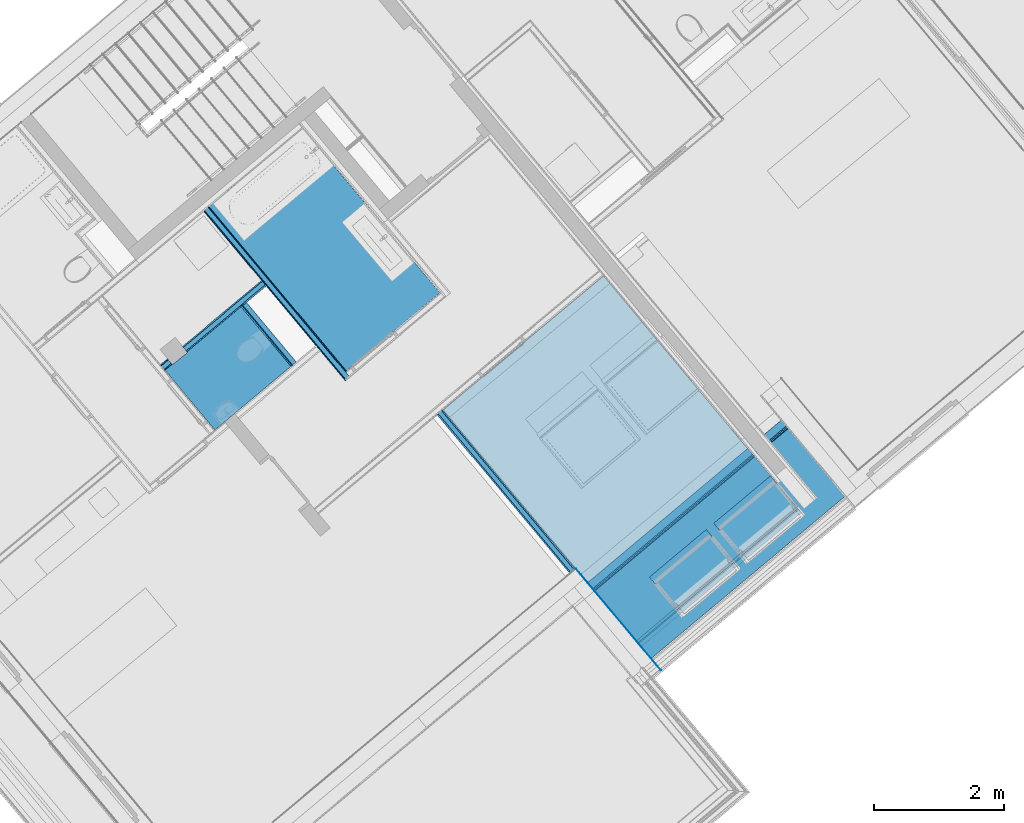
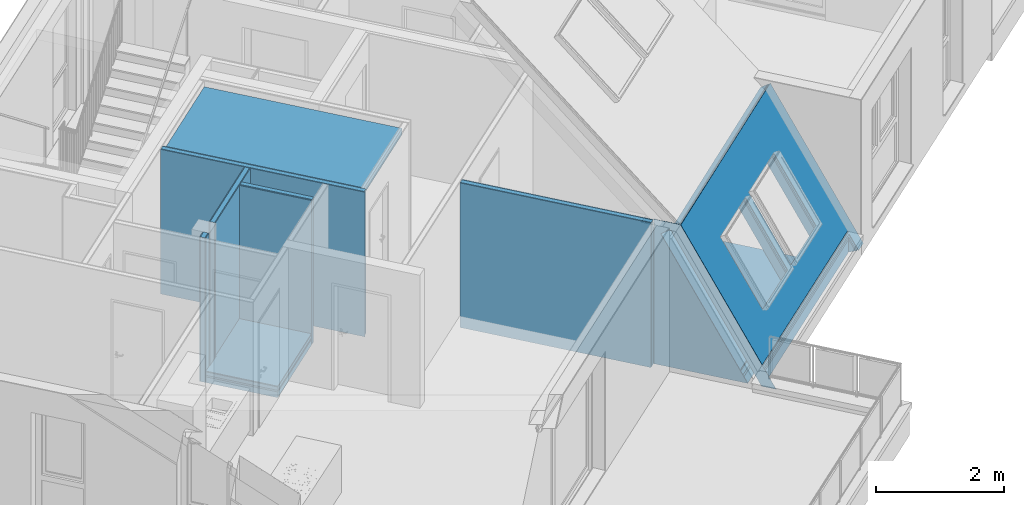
# One storey, part 27 of 61: 25 building element parts, 2 openings, 9 elements without a shape of their own.
"""IFC4 building model written with IfcOpenShell, lengths in metres."""

from ifc_helpers import new_model, entity, si_unit, converted_unit, derived_unit, direction, frame, origin_with_axes, place, context, subcontext, project, spatial, polygons, material, type_object, element, aggregate, save


model = new_model("IFC4")

# Units and contexts
model_context = context("Model", 3, precision=1e-05, world=origin_with_axes(), true_north=direction((0.0, 1.0)))
body_context = subcontext(model_context, "Body", "Model", "MODEL_VIEW")
ifc_project = project(units=[si_unit("LENGTHUNIT", "METRE"), si_unit("AREAUNIT", "SQUARE_METRE"), si_unit("VOLUMEUNIT", "CUBIC_METRE"), converted_unit("PLANEANGLEUNIT", "DEGREE", entity("IfcPlaneAngleMeasure", 0.0174532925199), si_unit("PLANEANGLEUNIT", "RADIAN"), dimensions=[0, 0, 0, 0, 0, 0, 0]), converted_unit("TIMEUNIT", "Year", entity("IfcTimeMeasure", 31556926.0), si_unit("TIMEUNIT", "SECOND"), dimensions=[0, 0, 1, 0, 0, 0, 0]), si_unit("MASSUNIT", "GRAM", prefix="KILO"), si_unit("THERMODYNAMICTEMPERATUREUNIT", "DEGREE_CELSIUS"), si_unit("LUMINOUSINTENSITYUNIT", "LUMEN"), si_unit("ENERGYUNIT", "JOULE", prefix="MEGA"), derived_unit("THERMALCONDUCTANCEUNIT", [(si_unit("POWERUNIT", "WATT"), 1), (si_unit("LENGTHUNIT", "METRE"), -1), (si_unit("THERMODYNAMICTEMPERATUREUNIT", "KELVIN"), -1)]), derived_unit("SPECIFICHEATCAPACITYUNIT", [(si_unit("ENERGYUNIT", "JOULE"), 1), (si_unit("MASSUNIT", "GRAM", prefix="KILO"), -1), (si_unit("THERMODYNAMICTEMPERATUREUNIT", "KELVIN"), -1)]), derived_unit("MASSDENSITYUNIT", [(si_unit("MASSUNIT", "GRAM", prefix="KILO"), 1), (si_unit("VOLUMEUNIT", "CUBIC_METRE"), -1)])], contexts=[model_context])

# Site, building, storey
site_placement = place(None, frame((-0.00153261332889, -0.00661245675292, 0.0), z_axis=(0.0, 0.0, 1.0), x_axis=(1.0, 0.0, 0.0)))
site = spatial("IfcSite", under=ifc_project, at=site_placement, Name="Gelände", CompositionType="ELEMENT")
building_placement = place(site_placement, origin_with_axes())
building = spatial("IfcBuilding", under=site, at=building_placement, Name="Gebäude", CompositionType="ELEMENT")
storey_placement = place(building_placement, frame((0.0, 0.0, 5.7), z_axis=(0.0, 0.0, 1.0), x_axis=(1.0, 0.0, 0.0)))
storey = spatial("IfcBuildingStorey", under=building, at=storey_placement, Name="DG1", CompositionType="ELEMENT", Elevation=5.7)

# Wall, building element parts
wall_type_1 = type_object("IfcWallType", Name="IW LB 01 Leichtbautrennwand einfach 10,5 cm 105", PredefinedType="NOTDEFINED")
wall_1_placement = place(storey_placement, frame((2.49953312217, 17.9744361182, 0.0), z_axis=(0.0, 0.0, 1.0), x_axis=(0.641209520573, -0.767365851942, 0.0)))
wall_1 = element("IfcWall", 1, at=wall_1_placement, inside=storey, type_object=wall_type_1, Name="Wand-012", PredefinedType="NOTDEFINED")
ifc_material_1 = material(Name="Gipskarton")
building_element_part_1_placement = place(wall_1_placement, origin_with_axes())
building_element_part_1 = element("IfcBuildingElementPart", 2, at=building_element_part_1_placement, material=ifc_material_1, Name="Gipskarton", PredefinedType="NOTDEFINED", context=body_context, shape_type="Tessellation", body=[
    polygons([(3.18327552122, -0.015, 2.76), (3.18327552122, 0.0, 2.76), (0.0, 0.0, 2.76), (0.0, -0.015, 2.76), (3.18327552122, -0.015, 0.0), (3.18327552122, 0.0, 0.0), (0.0, 0.0, 0.0), (0.0, -0.015, 0.0)], [[[1, 2, 3, 4]], [[1, 5, 6, 2]], [[2, 6, 7, 3]], [[4, 3, 7, 8]], [[5, 1, 4, 8]], [[6, 5, 8, 7]]], closed=True),
])
ifc_material_2 = material(Name="Mineralwolle weich")
building_element_part_2_placement = place(wall_1_placement, origin_with_axes())
building_element_part_2 = element("IfcBuildingElementPart", 3, at=building_element_part_2_placement, material=ifc_material_2, Name="Mineralwolle weich", PredefinedType="NOTDEFINED", context=body_context, shape_type="Tessellation", body=[
    polygons([(3.18327552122, -0.09, 2.76), (3.18327552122, -0.015, 2.76), (0.0, -0.015, 2.76), (0.0, -0.09, 2.76), (3.18327552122, -0.09, 0.0), (3.18327552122, -0.015, 0.0), (0.0, -0.015, 0.0), (0.0, -0.09, 0.0)], [[[1, 2, 3, 4]], [[1, 5, 6, 2]], [[2, 6, 7, 3]], [[4, 3, 7, 8]], [[5, 1, 4, 8]], [[6, 5, 8, 7]]], closed=True),
])
building_element_part_3_placement = place(wall_1_placement, origin_with_axes())
building_element_part_3 = element("IfcBuildingElementPart", 4, at=building_element_part_3_placement, material=ifc_material_1, Name="Gipskarton", PredefinedType="NOTDEFINED", context=body_context, shape_type="Tessellation", body=[
    polygons([(3.18327552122, -0.105, 2.76), (3.18327552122, -0.09, 2.76), (0.0, -0.09, 2.76), (0.0, -0.105, 2.76), (3.18327552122, -0.105, 0.0), (3.18327552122, -0.09, 0.0), (0.0, -0.09, 0.0), (0.0, -0.105, 0.0)], [[[1, 2, 3, 4]], [[1, 5, 6, 2]], [[2, 6, 7, 3]], [[4, 3, 7, 8]], [[5, 1, 4, 8]], [[6, 5, 8, 7]]], closed=True),
])
aggregate(wall_1, [building_element_part_1, building_element_part_2, building_element_part_3])

wall_2_placement = place(storey_placement, frame((-0.283908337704, 19.9697246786, 0.0), z_axis=(0.0, 0.0, 1.0), x_axis=(-0.76736585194, -0.641209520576, 0.0)))
wall_2 = element("IfcWall", 5, at=wall_2_placement, inside=storey, type_object=wall_type_1, Name="Wand-012", PredefinedType="NOTDEFINED")
building_element_part_4_placement = place(wall_2_placement, origin_with_axes())
building_element_part_4 = element("IfcBuildingElementPart", 6, at=building_element_part_4_placement, material=ifc_material_1, Name="Gipskarton", PredefinedType="NOTDEFINED", context=body_context, shape_type="Tessellation", body=[
    polygons([(1.88476244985, 0.105, 0.0), (1.88476244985, 0.105, 2.76), (2.02595275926, 0.105, 2.76), (2.02595275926, 0.105, 0.0), (1.88453826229, 0.09, 2.76), (1.88453826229, 0.09, 0.0), (2.02595275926, 0.09, 2.76), (2.02595275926, 0.09, 0.0)], [[[1, 2, 3, 4]], [[5, 2, 1, 6]], [[2, 5, 7, 3]], [[8, 4, 3, 7]], [[6, 1, 4, 8]], [[5, 6, 8, 7]]], closed=True),
    polygons([(1.58450475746, 0.09, 2.76), (1.58472894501, 0.105, 2.76), (0.0, 0.105, 2.76), (0.0, 0.09, 2.76), (1.58472894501, 0.105, 0.0), (1.58450475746, 0.09, 0.0), (0.0, 0.105, 0.0), (0.0, 0.09, 0.0)], [[[1, 2, 3, 4]], [[5, 2, 1, 6]], [[2, 5, 7, 3]], [[3, 7, 8, 4]], [[6, 1, 4, 8]], [[5, 6, 8, 7]]], closed=True),
])
building_element_part_5_placement = place(wall_2_placement, origin_with_axes())
building_element_part_5 = element("IfcBuildingElementPart", 7, at=building_element_part_5_placement, material=ifc_material_2, Name="Mineralwolle weich", PredefinedType="NOTDEFINED", context=body_context, shape_type="Tessellation", body=[
    polygons([(1.88453826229, 0.09, 0.0), (1.88453826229, 0.09, 2.76), (2.02595275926, 0.09, 2.76), (2.02595275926, 0.09, 0.0), (1.8834173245, 0.015, 2.76), (1.8834173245, 0.015, 0.0), (2.02595275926, 0.015, 2.76), (2.02595275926, 0.015, 0.0)], [[[1, 2, 3, 4]], [[5, 2, 1, 6]], [[2, 5, 7, 3]], [[8, 4, 3, 7]], [[6, 1, 4, 8]], [[5, 6, 8, 7]]], closed=True),
    polygons([(1.58338381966, 0.015, 2.76), (1.58450475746, 0.09, 2.76), (0.0, 0.09, 2.76), (0.0, 0.015, 2.76), (1.58450475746, 0.09, 0.0), (1.58338381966, 0.015, 0.0), (0.0, 0.09, 0.0), (0.0, 0.015, 0.0)], [[[1, 2, 3, 4]], [[5, 2, 1, 6]], [[2, 5, 7, 3]], [[3, 7, 8, 4]], [[6, 1, 4, 8]], [[5, 6, 8, 7]]], closed=True),
])
building_element_part_6_placement = place(wall_2_placement, origin_with_axes())
building_element_part_6 = element("IfcBuildingElementPart", 8, at=building_element_part_6_placement, material=ifc_material_1, Name="Gipskarton", PredefinedType="NOTDEFINED", context=body_context, shape_type="Tessellation", body=[
    polygons([(1.8834173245, 0.015, 0.0), (1.8834173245, 0.015, 2.76), (2.02595275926, 0.015, 2.76), (2.02595275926, 0.015, 0.0), (1.88319313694, 0.0, 2.76), (1.88319313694, 0.0, 0.0), (2.02595275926, 0.0, 2.76), (2.02595275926, 0.0, 0.0)], [[[1, 2, 3, 4]], [[5, 2, 1, 6]], [[2, 5, 7, 3]], [[8, 4, 3, 7]], [[6, 1, 4, 8]], [[5, 6, 8, 7]]], closed=True),
    polygons([(1.58315963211, 0.0, 2.76), (1.58338381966, 0.015, 2.76), (0.0, 0.015, 2.76), (0.0, 0.0, 2.76), (1.58338381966, 0.015, 0.0), (1.58315963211, 0.0, 0.0), (0.0, 0.015, 0.0), (0.0, 0.0, 0.0)], [[[1, 2, 3, 4]], [[5, 2, 1, 6]], [[2, 5, 7, 3]], [[3, 7, 8, 4]], [[6, 1, 4, 8]], [[5, 6, 8, 7]]], closed=True),
])
aggregate(wall_2, [building_element_part_4, building_element_part_5, building_element_part_6])

wall_3_placement = place(storey_placement, frame((-1.23301762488, 21.1055687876, 0.0), z_axis=(0.0, 0.0, 1.0), x_axis=(0.6412095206, -0.767365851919, 0.0)))
wall_3 = element("IfcWall", 9, at=wall_3_placement, inside=storey, type_object=wall_type_1, Name="Wand-012", PredefinedType="NOTDEFINED")
building_element_part_7_placement = place(wall_3_placement, origin_with_axes())
building_element_part_7 = element("IfcBuildingElementPart", 10, at=building_element_part_7_placement, material=ifc_material_1, Name="Gipskarton", PredefinedType="NOTDEFINED", context=body_context, shape_type="Tessellation", body=[
    polygons([(3.39960026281, 0.09, 0.0), (0.0900000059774, 0.09, 0.0), (0.0900000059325, 0.105, 0.0), (3.39960026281, 0.105, 0.0), (3.39960026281, 0.09, 2.76), (0.0900000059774, 0.09, 2.76), (0.0900000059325, 0.105, 2.76), (3.39960026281, 0.105, 2.76)], [[[1, 2, 3, 4]], [[5, 6, 2, 1]], [[3, 2, 6, 7]], [[4, 3, 7, 8]], [[4, 8, 5, 1]], [[8, 7, 6, 5]]], closed=True),
])
building_element_part_8_placement = place(wall_3_placement, origin_with_axes())
building_element_part_8 = element("IfcBuildingElementPart", 11, at=building_element_part_8_placement, material=ifc_material_2, Name="Mineralwolle weich", PredefinedType="NOTDEFINED", context=body_context, shape_type="Tessellation", body=[
    polygons([(3.47460026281, 0.015, 0.0), (0.0900000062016, 0.015, 0.0), (0.0900000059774, 0.09, 0.0), (3.47460026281, 0.09, 0.0), (3.47460026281, 0.015, 2.76), (0.0900000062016, 0.015, 2.76), (0.0900000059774, 0.09, 2.76), (3.47460026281, 0.09, 2.76)], [[[1, 2, 3, 4]], [[5, 6, 2, 1]], [[3, 2, 6, 7]], [[4, 3, 7, 8]], [[4, 8, 5, 1]], [[8, 7, 6, 5]]], closed=True),
])
building_element_part_9_placement = place(wall_3_placement, origin_with_axes())
building_element_part_9 = element("IfcBuildingElementPart", 12, at=building_element_part_9_placement, material=ifc_material_1, Name="Gipskarton", PredefinedType="NOTDEFINED", context=body_context, shape_type="Tessellation", body=[
    polygons([(3.48960026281, 0.0, 0.0), (0.0900000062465, 0.0, 0.0), (0.0900000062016, 0.015, 0.0), (3.48960026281, 0.015, 0.0), (3.48960026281, 0.0, 2.76), (0.0900000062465, 0.0, 2.76), (0.0900000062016, 0.015, 2.76), (3.48960026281, 0.015, 2.76)], [[[1, 2, 3, 4]], [[5, 6, 2, 1]], [[3, 2, 6, 7]], [[4, 3, 7, 8]], [[4, 8, 5, 1]], [[8, 7, 6, 5]]], closed=True),
])
aggregate(wall_3, [building_element_part_7, building_element_part_8, building_element_part_9])

wall_type_2 = type_object("IfcWallType", Name="LB 10,5 cm doppelte Vorsatzschale Bad 105", PredefinedType="NOTDEFINED")
wall_4_placement = place(storey_placement, frame((-0.587223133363, 19.7162753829, 0.0), z_axis=(0.0, 0.0, 1.0), x_axis=(0.64120952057, -0.767365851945, 0.0)))
wall_4 = element("IfcWall", 13, at=wall_4_placement, inside=storey, type_object=wall_type_2, Name="Wand-004", PredefinedType="NOTDEFINED")
building_element_part_10_placement = place(wall_4_placement, origin_with_axes())
building_element_part_10 = element("IfcBuildingElementPart", 14, at=building_element_part_10_placement, material=ifc_material_2, Name="Mineralwolle weich", PredefinedType="NOTDEFINED", context=body_context, shape_type="Tessellation", body=[
    polygons([(1.30487896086, 0.0, 2.76), (0.10500000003, 0.0, 2.76), (0.105000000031, -0.075, 2.76), (1.30487896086, -0.075, 2.76), (1.30487896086, 0.0, 0.0), (0.10500000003, 0.0, 0.0), (0.105000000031, -0.075, 0.0), (1.30487896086, -0.075, 0.0)], [[[1, 2, 3, 4]], [[5, 6, 2, 1]], [[3, 2, 6, 7]], [[4, 3, 7, 8]], [[4, 8, 5, 1]], [[8, 7, 6, 5]]], closed=True),
])
building_element_part_11_placement = place(wall_4_placement, origin_with_axes())
building_element_part_11 = element("IfcBuildingElementPart", 15, at=building_element_part_11_placement, material=ifc_material_1, Name="Gipskarton", PredefinedType="NOTDEFINED", context=body_context, shape_type="Tessellation", body=[
    polygons([(1.30487896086, -0.075, 2.76), (0.105000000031, -0.075, 2.76), (0.105000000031, -0.09, 2.76), (1.30487896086, -0.09, 2.76), (1.30487896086, -0.075, 0.0), (0.105000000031, -0.075, 0.0), (0.105000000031, -0.09, 0.0), (1.30487896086, -0.09, 0.0)], [[[1, 2, 3, 4]], [[5, 6, 2, 1]], [[3, 2, 6, 7]], [[4, 3, 7, 8]], [[4, 8, 5, 1]], [[8, 7, 6, 5]]], closed=True),
])
building_element_part_12_placement = place(wall_4_placement, origin_with_axes())
building_element_part_12 = element("IfcBuildingElementPart", 16, at=building_element_part_12_placement, material=ifc_material_1, Name="Gipskarton", PredefinedType="NOTDEFINED", context=body_context, shape_type="Tessellation", body=[
    polygons([(1.30487896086, -0.09, 2.76), (0.105000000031, -0.09, 2.76), (0.105000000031, -0.105, 2.76), (1.30487896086, -0.105, 2.76), (1.30487896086, -0.09, 0.0), (0.105000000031, -0.09, 0.0), (0.105000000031, -0.105, 0.0), (1.30487896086, -0.105, 0.0)], [[[1, 2, 3, 4]], [[5, 6, 2, 1]], [[3, 2, 6, 7]], [[4, 3, 7, 8]], [[4, 8, 5, 1]], [[8, 7, 6, 5]]], closed=True),
])
aggregate(wall_4, [building_element_part_10, building_element_part_11, building_element_part_12])

# Space
space_1_placement = place(storey_placement, frame((2.49953312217, 17.9744361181, 0.22), z_axis=(0.0, 0.0, 1.0), x_axis=(0.641209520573, -0.767365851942, 0.0)))
space_1 = spatial("IfcSpace", under=storey, at=space_1_placement, CompositionType="ELEMENT", PredefinedType="NOTDEFINED")

# Wall, building element part
wall_type_3 = type_object("IfcWallType", Name="AW EG 420", PredefinedType="NOTDEFINED")
wall_5_placement = place(space_1_placement, frame((3.60353912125, -0.404634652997, -0.22), z_axis=(0.0, 0.0, 1.0), x_axis=(0.999999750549, 0.000706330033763, 0.0)))
wall_5 = element("IfcWall", 17, at=wall_5_placement, inside=space_1, type_object=wall_type_3, Name="Wand-002", PredefinedType="NOTDEFINED")
ifc_material_3 = material(Name="Zementputz")
building_element_part_13_placement = place(wall_5_placement, origin_with_axes())
building_element_part_13 = element("IfcBuildingElementPart", 18, at=building_element_part_13_placement, material=ifc_material_3, Name="Zementputz", PredefinedType="NOTDEFINED", context=body_context, shape_type="Tessellation", body=[
    polygons([(-0.414977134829, 0.415, 0.0), (-0.414977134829, 0.415, 2.76), (-0.414976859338, 0.42, 2.76), (-0.414976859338, 0.42, 0.0), (1.14911344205, 0.415, 0.0), (-0.299028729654, 0.415, 2.50825578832), (-0.138988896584, 0.415, 2.63105866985), (1.38005355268, 0.415, 0.0), (1.6225414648, 0.415, 0.0), (0.0290539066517, 0.415, 2.76), (0.0290546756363, 0.42, 2.76), (1.6225414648, 0.42, 0.0), (1.38005432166, 0.42, 0.0), (-0.138988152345, 0.42, 2.63105871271), (-0.299027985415, 0.42, 2.50825583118), (1.14911421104, 0.42, 0.0)], [[[1, 2, 3, 4]], [[2, 1, 5, 6, 7, 8, 9, 10]], [[3, 2, 10, 11]], [[4, 3, 11, 12, 13, 14, 15, 16]], [[1, 4, 16, 5]], [[15, 6, 5, 16]], [[6, 15, 14, 7]], [[13, 8, 7, 14]], [[8, 13, 12, 9]], [[11, 10, 9, 12]]], closed=True),
])
aggregate(wall_5, [building_element_part_13])

# Space
space_2_placement = place(storey_placement, frame((12.8063322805, 20.3315828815, 0.22), z_axis=(0.0, 0.0, 1.0), x_axis=(-0.641209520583, 0.767365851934, 0.0)))
space_2 = spatial("IfcSpace", under=storey, at=space_2_placement, CompositionType="ELEMENT", PredefinedType="NOTDEFINED")

# Roof, openings, building element parts
roof_type = type_object("IfcRoofType", Name="Schrägdach Dachaufbau 210", PredefinedType="NOTDEFINED")
roof_placement = place(space_2_placement, frame((-2.51294410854, 5.52764683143, -4.25883204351), z_axis=(0.0, 0.0, 1.0), x_axis=(-0.000552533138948, 0.999999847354, 0.0)))
roof = element("IfcRoof", 19, at=roof_placement, inside=space_2, type_object=roof_type, Name="Dach-001", PredefinedType="NOTDEFINED")
opening_1_placement = place(roof_placement, frame((1.23581356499, -2.60271391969, 0.889200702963), z_axis=(0.0, 0.0, 1.0), x_axis=(1.0, 0.0, 0.0)))
element("IfcOpeningElement", 20, at=opening_1_placement, cuts=roof, Name="DFenst-002", context=body_context, identifier="Reference", shape_type="Tessellation", body=[
    polygons([(0.57, 0.0, 4.03883204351), (-0.57, 0.0, 4.03883204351), (-0.57, 0.000866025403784, 4.03933204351), (0.57, 0.000866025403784, 4.03933204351), (0.57, 0.0, 3.61683204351), (-0.57, 0.0, 3.61683204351), (-0.57, -0.7, 5.2512676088), (-0.57, -0.699133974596, 5.2517676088), (0.57, -0.699133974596, 5.2517676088), (0.57, -0.7, 5.2512676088), (0.57, -0.943641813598, 5.2512676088), (-0.57, -0.943641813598, 5.2512676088)], [[[1, 2, 3, 4]], [[2, 1, 5, 6]], [[2, 7, 8, 3]], [[9, 4, 3, 8]], [[10, 1, 4, 9]], [[1, 10, 11, 5]], [[12, 6, 5, 11]], [[7, 2, 6, 12]], [[7, 10, 9, 8]], [[10, 7, 12, 11]]], closed=True),
])
opening_2_placement = place(roof_placement, frame((2.52581356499, -2.60271392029, 0.889200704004), z_axis=(0.0, 0.0, 1.0), x_axis=(1.0, 0.0, 0.0)))
element("IfcOpeningElement", 21, at=opening_2_placement, cuts=roof, Name="DFenst-002", context=body_context, identifier="Reference", shape_type="Tessellation", body=[
    polygons([(0.57, 0.0, 4.03883204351), (-0.57, 0.0, 4.03883204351), (-0.57, 0.000866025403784, 4.03933204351), (0.57, 0.000866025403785, 4.03933204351), (0.57, 0.0, 3.61683204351), (-0.57, 0.0, 3.61683204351), (-0.57, -0.7, 5.2512676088), (-0.57, -0.699133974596, 5.2517676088), (0.57, -0.699133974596, 5.2517676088), (0.57, -0.7, 5.2512676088), (0.57, -0.943641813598, 5.2512676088), (-0.57, -0.943641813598, 5.2512676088)], [[[1, 2, 3, 4]], [[2, 1, 5, 6]], [[2, 7, 8, 3]], [[9, 4, 3, 8]], [[10, 1, 4, 9]], [[1, 10, 11, 5]], [[12, 6, 5, 11]], [[7, 2, 6, 12]], [[7, 10, 9, 8]], [[10, 7, 12, 11]]], closed=True),
])
ifc_material_4 = material(Name="Stehfalz")
building_element_part_14_placement = place(roof_placement, origin_with_axes())
building_element_part_14 = element("IfcBuildingElementPart", 22, at=building_element_part_14_placement, material=ifc_material_4, Name="Stehfalz", PredefinedType="NOTDEFINED", context=body_context, shape_type="Tessellation", body=[
    polygons([(3.8752350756, -2.32352021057, 4.44445505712), (1.87098129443, -2.32381274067, 4.44496173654), (-0.0062326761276, -2.32408733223, 4.44543734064), (-0.0062345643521, -2.31181107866, 4.42417424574), (3.87523325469, -2.3118219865, 4.42419313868), (3.87523097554, -2.29717975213, 4.39883204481), (-0.00623681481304, -2.2971797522, 4.39883204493), (-0.00626149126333, -2.13674630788, 4.12095316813), (-0.221145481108, -2.1367675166, 4.12098990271), (-0.220992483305, -3.68692132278, 6.80593505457), (3.87544603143, -3.67878755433, 6.79184695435), (1.80581356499, -3.30271391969, 6.14046831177), (0.665813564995, -3.30271391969, 6.14046831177), (0.665813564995, -2.60271391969, 4.92803274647), (1.80581356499, -2.60271391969, 4.92803274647), (3.09581356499, -2.60271392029, 4.92803274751), (3.09581356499, -3.30271392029, 6.14046831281), (1.95581356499, -3.30271392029, 6.14046831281), (1.95581356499, -2.60271392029, 4.92803274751), (-0.00623267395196, -2.32410147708, 4.44496173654), (3.87523381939, -2.3241100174, 4.42547663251), (-0.00623258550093, -2.32467653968, 4.42645787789), (-0.00623275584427, -2.32356905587, 4.42453965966), (3.87523373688, -2.32357996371, 4.42455855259), (3.87523064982, -2.30374741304, 4.39020756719), (3.8752312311, -2.30374741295, 4.39883204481), (-0.00623571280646, -2.30434442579, 4.39883204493), (-0.00623571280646, -2.30434442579, 4.39124162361), (-0.00626005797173, -2.14606482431, 4.11709331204), (-0.221145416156, -2.14608603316, 4.11713004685), (-0.220992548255, -3.69492330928, 6.79979490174), (3.87544592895, -3.68678954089, 6.78570680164), (1.80581356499, -3.31426092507, 6.14046831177), (0.665813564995, -3.31426092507, 6.14046831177), (0.665813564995, -2.60271391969, 4.90803274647), (1.80581356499, -2.60271391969, 4.90803274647), (3.09581356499, -3.31426092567, 6.14046831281), (3.09581356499, -2.60271392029, 4.90803274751), (1.95581356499, -3.31426092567, 6.14046831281), (1.95581356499, -2.60271392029, 4.90803274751)], [[[1, 2, 3, 4, 5, 6, 7, 8, 9, 10, 11], [12, 13, 14, 15], [16, 17, 18, 19]], [[20, 2, 1, 21, 22]], [[2, 20, 3]], [[20, 22, 23, 4, 3]], [[5, 4, 23, 24]], [[5, 24, 25, 26, 6]], [[7, 6, 26, 27]], [[8, 7, 27, 28, 29]], [[8, 29, 30, 9]], [[30, 31, 10, 9]], [[31, 32, 11, 10]], [[21, 1, 11, 32]], [[13, 12, 33, 34]], [[14, 13, 34, 35]], [[15, 14, 35, 36]], [[12, 15, 36, 33]], [[37, 17, 16, 38]], [[39, 18, 17, 37]], [[40, 19, 18, 39]], [[38, 16, 19, 40]], [[22, 21, 32, 31, 30, 29, 28, 25, 24, 23], [33, 36, 35, 34], [39, 37, 38, 40]], [[25, 28, 27, 26]]], closed=True),
])
ifc_material_5 = material(Name="Luftschicht horizontal")
building_element_part_15_placement = place(roof_placement, origin_with_axes())
building_element_part_15 = element("IfcBuildingElementPart", 23, at=building_element_part_15_placement, material=ifc_material_5, Name="Luftschicht horizontal", PredefinedType="NOTDEFINED", context=body_context, shape_type="Tessellation", body=[
    polygons([(3.87522727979, -2.30374741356, 4.34020756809), (-0.00623571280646, -2.30434442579, 4.34124162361), (-0.00625647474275, -2.16936111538, 4.1074436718), (-0.221145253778, -2.16938232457, 4.1074804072), (-0.220992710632, -3.71492827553, 6.78444451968), (3.87544567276, -3.70679450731, 6.77035641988), (1.80581356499, -3.34312843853, 6.14046831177), (0.665813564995, -3.34312843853, 6.14046831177), (0.665813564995, -2.60271391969, 4.85803274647), (1.80581356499, -2.60271391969, 4.85803274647), (3.09581356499, -2.60271392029, 4.85803274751), (3.09581356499, -3.34312843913, 6.14046831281), (1.95581356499, -3.34312843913, 6.14046831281), (1.95581356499, -2.60271392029, 4.85803274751), (3.87522390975, -2.30374741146, 4.29020756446), (-0.00623571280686, -2.30434442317, 4.29124161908), (-0.00625289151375, -2.19265740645, 4.09779403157), (-0.2211450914, -2.19267861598, 4.09783076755), (-0.220992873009, -3.73493324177, 6.76909413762), (3.87544541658, -3.72679947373, 6.75500603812), (1.80581356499, -3.37199595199, 6.14046831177), (0.665813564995, -3.37199595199, 6.14046831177), (0.665813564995, -2.60271391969, 4.80803274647), (1.80581356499, -2.60271391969, 4.80803274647), (3.09581356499, -3.37199595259, 6.14046831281), (3.09581356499, -2.60271392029, 4.80803274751), (1.95581356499, -3.37199595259, 6.14046831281), (1.95581356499, -2.60271392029, 4.80803274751)], [[[1, 2, 3, 4, 5, 6], [7, 8, 9, 10], [11, 12, 13, 14]], [[2, 1, 15, 16]], [[3, 2, 16, 17]], [[3, 17, 18, 4]], [[18, 19, 5, 4]], [[19, 20, 6, 5]], [[1, 6, 20, 15]], [[8, 7, 21, 22]], [[9, 8, 22, 23]], [[10, 9, 23, 24]], [[7, 10, 24, 21]], [[25, 12, 11, 26]], [[27, 13, 12, 25]], [[28, 14, 13, 27]], [[26, 11, 14, 28]], [[16, 15, 20, 19, 18, 17], [21, 24, 23, 22], [27, 25, 26, 28]]], closed=True),
])
ifc_material_6 = material(Name="EPS 1")
building_element_part_16_placement = place(roof_placement, origin_with_axes())
building_element_part_16 = element("IfcBuildingElementPart", 24, at=building_element_part_16_placement, material=ifc_material_6, Name="EPS 1", PredefinedType="NOTDEFINED", context=body_context, shape_type="Tessellation", body=[
    polygons([(3.87522390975, -2.30374741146, 4.29020756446), (-0.00623571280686, -2.30434442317, 4.29124161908), (-0.00625289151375, -2.19265740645, 4.09779403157), (-0.2211450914, -2.19267861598, 4.09783076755), (-0.220992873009, -3.73493324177, 6.76909413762), (3.87544541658, -3.72679947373, 6.75500603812), (1.80581356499, -3.37199595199, 6.14046831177), (0.665813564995, -3.37199595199, 6.14046831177), (0.665813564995, -2.60271391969, 4.80803274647), (1.80581356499, -2.60271391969, 4.80803274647), (3.09581356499, -2.60271392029, 4.80803274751), (3.09581356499, -3.37199595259, 6.14046831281), (1.95581356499, -3.37199595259, 6.14046831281), (1.95581356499, -2.60271392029, 4.80803274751), (3.87520778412, -2.30374741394, 4.0509568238), (-0.00623571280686, -2.30434442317, 4.05153175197), (3.87520809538, -2.33205206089, 4.03923265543), (-0.22114411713, -2.33245636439, 4.03993292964), (-0.22099384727, -3.85496303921, 6.67699184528), (3.87544387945, -3.8468292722, 6.66290374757), (1.80581356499, -3.54520103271, 6.14046831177), (0.665813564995, -3.54520103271, 6.14046831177), (0.665813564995, -2.60271391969, 4.50803274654), (1.80581356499, -2.60271391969, 4.50803274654), (3.09581356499, -3.54520103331, 6.14046831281), (3.09581356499, -2.60271392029, 4.50803274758), (1.95581356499, -3.54520103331, 6.14046831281), (1.95581356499, -2.60271392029, 4.50803274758)], [[[1, 2, 3, 4, 5, 6], [7, 8, 9, 10], [11, 12, 13, 14]], [[2, 1, 15, 16]], [[16, 3, 2]], [[16, 15, 17, 18, 4, 3]], [[18, 19, 5, 4]], [[19, 20, 6, 5]], [[15, 1, 6, 20, 17]], [[8, 7, 21, 22]], [[9, 8, 22, 23]], [[10, 9, 23, 24]], [[7, 10, 24, 21]], [[25, 12, 11, 26]], [[27, 13, 12, 25]], [[28, 14, 13, 27]], [[26, 11, 14, 28]], [[20, 19, 18, 17], [21, 24, 23, 22], [27, 25, 26, 28]]], closed=True),
])
aggregate(roof, [building_element_part_14, building_element_part_15, building_element_part_16])

# Space
space_3_placement = place(storey_placement, frame((-1.0947353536, 21.1038328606, 0.22), z_axis=(0.0, 0.0, 1.0), x_axis=(0.641209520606, -0.767365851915, 0.0)))
space_3 = spatial("IfcSpace", under=storey, at=space_3_placement, CompositionType="ELEMENT", PredefinedType="NOTDEFINED")

# Slab, building element part
slab_type = type_object("IfcSlabType", Name="Vorsatzschale Garage 130", PredefinedType="NOTDEFINED")
slab_placement = place(space_3_placement, frame((-2.28857999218e-09, 0.0, 2.43), z_axis=(0.0, 0.0, 1.0), x_axis=(0.641209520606, 0.767365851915, 0.0)))
slab = element("IfcSlab", 25, at=slab_placement, inside=space_3, type_object=slab_type, Name="Decke-005", PredefinedType="NOTDEFINED")
ifc_material_7 = material(Name="Holzwolledämmplatte")
building_element_part_17_placement = place(slab_placement, origin_with_axes())
building_element_part_17 = element("IfcBuildingElementPart", 26, at=building_element_part_17_placement, material=ifc_material_7, Name="Holzwolledämmplatte", PredefinedType="NOTDEFINED", context=body_context, shape_type="Tessellation", body=[
    polygons([(2.11252905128, -2.52816373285, -0.12), (2.11252905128, -2.52816373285, 0.0), (0.0, 0.0, 0.0), (0.0, 0.0, -0.12), (3.55544172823, -1.32246850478, -0.12), (3.55544172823, -1.32246850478, 0.0), (1.44299501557, 1.20576403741, 0.0), (1.44299501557, 1.20576403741, -0.12)], [[[1, 2, 3, 4]], [[5, 6, 2, 1]], [[3, 2, 6, 7]], [[4, 3, 7, 8]], [[4, 8, 5, 1]], [[8, 7, 6, 5]]], closed=True),
])
aggregate(slab, [building_element_part_17])

# Covering, building element parts
covering_type_1 = type_object("IfcCoveringType", Name="DE 01 Decke Wohnung/Wohnung Parkett 220", PredefinedType="NOTDEFINED")
covering_1_placement = place(storey_placement, frame((2.49953312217, 17.9744361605, 0.22), z_axis=(0.0, 0.0, 1.0), x_axis=(1.0, 0.0, 0.0)))
covering_1 = element("IfcCovering", 27, at=covering_1_placement, inside=storey, type_object=covering_type_1, Name="Decke-006", PredefinedType="NOTDEFINED")
ifc_material_8 = material(Name="Parkett")
building_element_part_18_placement = place(covering_1_placement, origin_with_axes())
building_element_part_18 = element("IfcBuildingElementPart", 28, at=building_element_part_18_placement, material=ifc_material_8, Name="Parkett", PredefinedType="NOTDEFINED", context=body_context, shape_type="Tessellation", body=[
    polygons([(5.43931984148, -1.4801580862, 0.0), (5.44486972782, -1.48680630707, -0.015), (2.47632853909, 2.0692156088, -0.015), (2.47632853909, 2.0692156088, 0.0), (2.98371411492, -3.54565392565, -0.015), (2.97815638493, -3.53901226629, 0.0), (2.32244345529, -2.75541502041, -0.015), (2.05272115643, -2.43305242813, -0.015), (2.0411465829, -2.44273701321, -0.015), (0.0, 0.0, -0.015), (0.0, 0.0, 0.0), (2.0411465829, -2.44273701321, 0.0), (2.05272115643, -2.43305242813, 0.0), (2.32244345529, -2.75541502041, 0.0)], [[[1, 2, 3, 4]], [[5, 2, 1, 6]], [[2, 5, 7, 8, 9, 10, 3]], [[4, 3, 10, 11]], [[6, 1, 4, 11, 12, 13, 14]], [[5, 6, 14, 7]], [[8, 7, 14, 13]], [[12, 9, 8, 13]], [[11, 10, 9, 12]]], closed=True),
])
ifc_material_9 = material(Name="Estrich")
building_element_part_19_placement = place(covering_1_placement, origin_with_axes())
building_element_part_19 = element("IfcBuildingElementPart", 29, at=building_element_part_19_placement, material=ifc_material_9, Name="Estrich", PredefinedType="NOTDEFINED", context=body_context, shape_type="Tessellation", body=[
    polygons([(5.44486972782, -1.48680630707, -0.015), (5.46891923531, -1.51561526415, -0.08), (2.47632853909, 2.0692156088, -0.08), (2.47632853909, 2.0692156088, -0.015), (3.00779761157, -3.57443444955, -0.08), (2.98371411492, -3.54565392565, -0.015), (2.32244345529, -2.75541502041, -0.08), (2.05272115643, -2.43305242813, -0.08), (2.0411465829, -2.44273701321, -0.08), (0.0, 0.0, -0.08), (0.0, 0.0, -0.015), (2.0411465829, -2.44273701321, -0.015), (2.05272115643, -2.43305242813, -0.015), (2.32244345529, -2.75541502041, -0.015)], [[[1, 2, 3, 4]], [[5, 2, 1, 6]], [[2, 5, 7, 8, 9, 10, 3]], [[4, 3, 10, 11]], [[6, 1, 4, 11, 12, 13, 14]], [[5, 6, 14, 7]], [[8, 7, 14, 13]], [[12, 9, 8, 13]], [[11, 10, 9, 12]]], closed=True),
])
ifc_material_10 = material(Name="Trittschalldämmung")
building_element_part_20_placement = place(covering_1_placement, origin_with_axes())
building_element_part_20 = element("IfcBuildingElementPart", 30, at=building_element_part_20_placement, material=ifc_material_10, Name="Trittschalldämmung", PredefinedType="NOTDEFINED", context=body_context, shape_type="Tessellation", body=[
    polygons([(5.46891923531, -1.51561526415, -0.08), (5.480019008, -1.52891170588, -0.11), (2.47632853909, 2.0692156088, -0.11), (2.47632853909, 2.0692156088, -0.08), (3.01891307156, -3.58771776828, -0.11), (3.00779761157, -3.57443444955, -0.08), (2.32244345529, -2.75541502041, -0.11), (2.05272115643, -2.43305242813, -0.11), (2.0411465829, -2.44273701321, -0.11), (0.0, 0.0, -0.11), (0.0, 0.0, -0.08), (2.0411465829, -2.44273701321, -0.08), (2.05272115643, -2.43305242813, -0.08), (2.32244345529, -2.75541502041, -0.08)], [[[1, 2, 3, 4]], [[5, 2, 1, 6]], [[2, 5, 7, 8, 9, 10, 3]], [[4, 3, 10, 11]], [[6, 1, 4, 11, 12, 13, 14]], [[5, 6, 14, 7]], [[8, 7, 14, 13]], [[12, 9, 8, 13]], [[11, 10, 9, 12]]], closed=True),
])
ifc_material_11 = material(Name="Schüttung")
building_element_part_21_placement = place(covering_1_placement, origin_with_axes())
building_element_part_21 = element("IfcBuildingElementPart", 31, at=building_element_part_21_placement, material=ifc_material_11, Name="Schüttung", PredefinedType="NOTDEFINED", context=body_context, shape_type="Tessellation", body=[
    polygons([(5.480019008, -1.52891170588, -0.11), (5.52071817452, -1.57766532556, -0.22), (2.47632853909, 2.0692156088, -0.22), (2.47632853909, 2.0692156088, -0.11), (3.05966975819, -3.63642327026, -0.22), (3.01891307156, -3.58771776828, -0.11), (2.32244345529, -2.75541502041, -0.22), (2.05272115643, -2.43305242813, -0.22), (2.0411465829, -2.44273701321, -0.22), (0.0, 0.0, -0.22), (0.0, 0.0, -0.11), (2.0411465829, -2.44273701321, -0.11), (2.05272115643, -2.43305242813, -0.11), (2.32244345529, -2.75541502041, -0.11)], [[[1, 2, 3, 4]], [[5, 2, 1, 6]], [[2, 5, 7, 8, 9, 10, 3]], [[11, 4, 3, 10]], [[6, 1, 4, 11, 12, 13, 14]], [[5, 6, 14, 7]], [[8, 7, 14, 13]], [[13, 12, 9, 8]], [[12, 11, 10, 9]]], closed=True),
])
aggregate(covering_1, [building_element_part_18, building_element_part_19, building_element_part_20, building_element_part_21])

covering_type_2 = type_object("IfcCoveringType", Name="DE 01 Decke Wohnung/Wohnung Fließen 220", PredefinedType="NOTDEFINED")
covering_2_placement = place(storey_placement, frame((-1.77122830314, 18.5900910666, 0.22), z_axis=(0.0, 0.0, 1.0), x_axis=(1.0, 0.0, 0.0)))
covering_2 = element("IfcCovering", 32, at=covering_2_placement, inside=storey, type_object=covering_type_2, Name="Decke-004", PredefinedType="NOTDEFINED")
ifc_material_12 = material(Name="Fliesen")
building_element_part_22_placement = place(covering_2_placement, origin_with_axes())
building_element_part_22 = element("IfcBuildingElementPart", 33, at=building_element_part_22_placement, material=ifc_material_12, Name="Fliesen", PredefinedType="NOTDEFINED", context=body_context, shape_type="Tessellation", body=[
    polygons([(0.769373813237, -0.920746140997, -0.015), (0.769373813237, -0.920746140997, 0.0), (0.0, 0.0, 0.0), (0.0, 0.0, -0.015), (1.94013256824, 0.0575377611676, -0.015), (1.94013256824, 0.0575377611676, 0.0), (1.170758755, 0.978283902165, 0.0), (0.338580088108, 0.282916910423, 0.0), (0.34712229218, 0.272377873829, 0.0), (0.114063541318, 0.0834767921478, 0.0), (0.108344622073, 0.0905325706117, 0.0), (0.108344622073, 0.0905325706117, -0.015), (0.114063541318, 0.0834767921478, -0.015), (0.34712229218, 0.272377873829, -0.015), (0.338580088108, 0.282916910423, -0.015), (1.170758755, 0.978283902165, -0.015)], [[[1, 2, 3, 4]], [[5, 6, 2, 1]], [[3, 2, 6, 7, 8, 9, 10, 11]], [[4, 3, 11, 12]], [[4, 12, 13, 14, 15, 16, 5, 1]], [[16, 7, 6, 5]], [[15, 8, 7, 16]], [[14, 9, 8, 15]], [[13, 10, 9, 14]], [[12, 11, 10, 13]]], closed=True),
])
building_element_part_23_placement = place(covering_2_placement, origin_with_axes())
building_element_part_23 = element("IfcBuildingElementPart", 34, at=building_element_part_23_placement, material=ifc_material_9, Name="Estrich", PredefinedType="NOTDEFINED", context=body_context, shape_type="Tessellation", body=[
    polygons([(0.769373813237, -0.920746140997, -0.08), (0.769373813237, -0.920746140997, -0.015), (0.0, 0.0, -0.015), (0.0, 0.0, -0.08), (1.94013256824, 0.0575377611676, -0.08), (1.94013256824, 0.0575377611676, -0.015), (1.170758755, 0.978283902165, -0.015), (0.338580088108, 0.282916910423, -0.015), (0.34712229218, 0.272377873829, -0.015), (0.114063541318, 0.0834767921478, -0.015), (0.108344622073, 0.0905325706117, -0.015), (0.108344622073, 0.0905325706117, -0.08), (0.114063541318, 0.0834767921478, -0.08), (0.34712229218, 0.272377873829, -0.08), (0.338580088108, 0.282916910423, -0.08), (1.170758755, 0.978283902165, -0.08)], [[[1, 2, 3, 4]], [[5, 6, 2, 1]], [[3, 2, 6, 7, 8, 9, 10, 11]], [[4, 3, 11, 12]], [[4, 12, 13, 14, 15, 16, 5, 1]], [[16, 7, 6, 5]], [[15, 8, 7, 16]], [[14, 9, 8, 15]], [[13, 10, 9, 14]], [[12, 11, 10, 13]]], closed=True),
])
building_element_part_24_placement = place(covering_2_placement, origin_with_axes())
building_element_part_24 = element("IfcBuildingElementPart", 35, at=building_element_part_24_placement, material=ifc_material_10, Name="Trittschalldämmung", PredefinedType="NOTDEFINED", context=body_context, shape_type="Tessellation", body=[
    polygons([(0.769373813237, -0.920746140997, -0.11), (0.769373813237, -0.920746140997, -0.08), (0.0, 0.0, -0.08), (0.0, 0.0, -0.11), (1.94013256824, 0.0575377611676, -0.11), (1.94013256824, 0.0575377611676, -0.08), (1.170758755, 0.978283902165, -0.08), (0.338580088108, 0.282916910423, -0.08), (0.34712229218, 0.272377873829, -0.08), (0.114063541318, 0.0834767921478, -0.08), (0.108344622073, 0.0905325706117, -0.08), (0.108344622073, 0.0905325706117, -0.11), (0.114063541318, 0.0834767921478, -0.11), (0.34712229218, 0.272377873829, -0.11), (0.338580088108, 0.282916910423, -0.11), (1.170758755, 0.978283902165, -0.11)], [[[1, 2, 3, 4]], [[5, 6, 2, 1]], [[3, 2, 6, 7, 8, 9, 10, 11]], [[4, 3, 11, 12]], [[4, 12, 13, 14, 15, 16, 5, 1]], [[16, 7, 6, 5]], [[15, 8, 7, 16]], [[14, 9, 8, 15]], [[13, 10, 9, 14]], [[12, 11, 10, 13]]], closed=True),
])
building_element_part_25_placement = place(covering_2_placement, origin_with_axes())
building_element_part_25 = element("IfcBuildingElementPart", 36, at=building_element_part_25_placement, material=ifc_material_11, Name="Schüttung", PredefinedType="NOTDEFINED", context=body_context, shape_type="Tessellation", body=[
    polygons([(0.0, 0.0, -0.22), (0.769373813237, -0.920746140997, -0.22), (0.769373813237, -0.920746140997, -0.11), (0.0, 0.0, -0.11), (0.108344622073, 0.0905325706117, -0.22), (0.114063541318, 0.0834767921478, -0.22), (0.34712229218, 0.272377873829, -0.22), (0.338580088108, 0.282916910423, -0.22), (1.170758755, 0.978283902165, -0.22), (1.94013256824, 0.0575377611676, -0.22), (1.94013256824, 0.0575377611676, -0.11), (1.170758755, 0.978283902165, -0.11), (0.338580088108, 0.282916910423, -0.11), (0.34712229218, 0.272377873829, -0.11), (0.114063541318, 0.0834767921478, -0.11), (0.108344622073, 0.0905325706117, -0.11)], [[[1, 2, 3, 4]], [[1, 5, 6, 7, 8, 9, 10, 2]], [[2, 10, 11, 3]], [[4, 3, 11, 12, 13, 14, 15, 16]], [[5, 1, 4, 16]], [[6, 5, 16, 15]], [[7, 6, 15, 14]], [[8, 7, 14, 13]], [[9, 8, 13, 12]], [[10, 9, 12, 11]]], closed=True),
])
aggregate(covering_2, [building_element_part_22, building_element_part_23, building_element_part_24, building_element_part_25])

save(model, "model.ifc")
